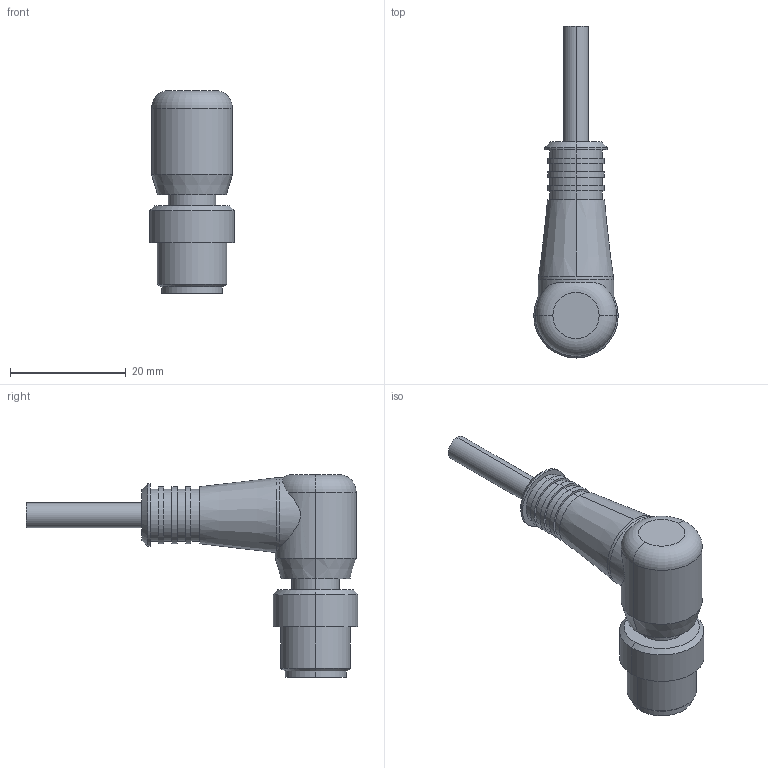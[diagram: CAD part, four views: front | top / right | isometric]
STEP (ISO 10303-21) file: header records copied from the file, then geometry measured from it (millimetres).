
FILE_DESCRIPTION((''),'2;1');
FILE_NAME('R412021691','2024-01-22T14:16:59',('THD3HC'),(''),'CREO PARAMETRIC BY PTC INC, 2020044','CREO PARAMETRIC BY PTC INC, 2020044','');
FILE_SCHEMA(('CONFIG_CONTROL_DESIGN','SHAPE_APPEARANCE_LAYERS_GROUPS'));
Length unit declared in the file: millimetre
Products named in the file (1): R412021691
Bounding box: 14.6 x 57.3 x 35 mm (x, y, z)
Volume: 6707.4 mm3; surface area: 3351.6 mm2
Topology: 1 solids, 1 shells, 80 faces, 165 edges, 106 vertices
Faces by surface type: cylinder 42, plane 25, cone 10, torus 2, bspline 1
Entity records: 3197 total; most frequent: CARTESIAN_POINT 509, DIRECTION 416, ORIENTED_EDGE 330, PRESENTATION_STYLE_ASSIGNMENT 195, AXIS2_PLACEMENT_3D 179, STYLED_ITEM 169, CURVE_STYLE 165, EDGE_CURVE 165
